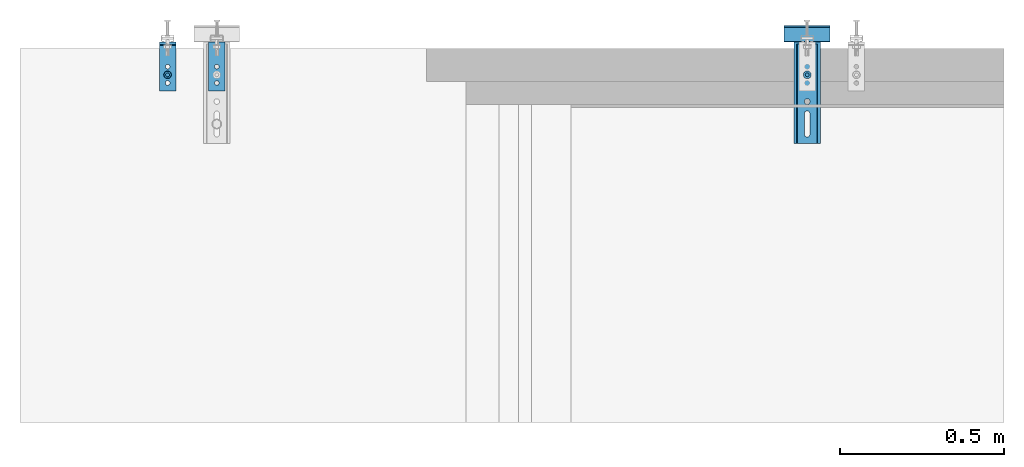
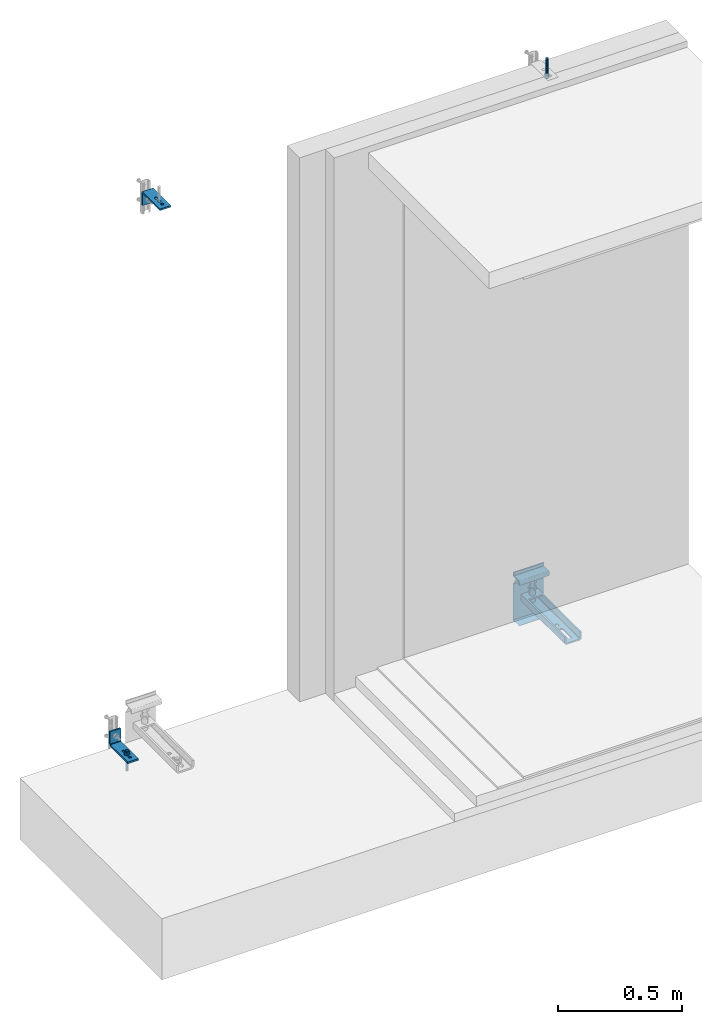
# One storey, part 3 of 7: 6 assemblies, 12 openings.
"""IFC2X3 building model written with IfcOpenShell, lengths in metres."""

from ifc_helpers import new_model, entity, si_unit, converted_unit, derived_unit, direction, frame, frame_2d, origin, place, context, subcontext, project, spatial, polyline, circle_curve, parameter, trimmed, segment, composite_curve, circle, hollow_circle, outline, extrude, source, transform, mapped, material, type_object, type_shapes, element, save


model = new_model("IFC2X3")

# Units and contexts
model_context = context("Model", 3, precision=1e-05, world=origin(), true_north=direction((6.123031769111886e-17, 1.0)))
body_context = subcontext(model_context, "Body", "Model", "MODEL_VIEW")
ifc_project = project(units=[si_unit("LENGTHUNIT", "METRE"), si_unit("AREAUNIT", "SQUARE_METRE"), converted_unit("PLANEANGLEUNIT", "DEGREE", entity("IfcPlaneAngleMeasure", 0.017453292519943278), si_unit("PLANEANGLEUNIT", "RADIAN"), dimensions=[0, 0, 0, 0, 0, 0, 0]), si_unit("VOLUMEUNIT", "CUBIC_METRE"), derived_unit("THERMALTRANSMITTANCEUNIT", [(si_unit("MASSUNIT", "GRAM", prefix="KILO"), 1), (si_unit("THERMODYNAMICTEMPERATUREUNIT", "KELVIN"), -1), (si_unit("TIMEUNIT", "SECOND"), -3)]), derived_unit("USERDEFINED", [(si_unit("MASSUNIT", "GRAM", prefix="KILO"), 1), (si_unit("THERMODYNAMICTEMPERATUREUNIT", "KELVIN"), -1), (si_unit("TIMEUNIT", "SECOND"), -2)]), derived_unit("THERMALRESISTANCEUNIT", [(si_unit("MASSUNIT", "GRAM", prefix="KILO"), -1), (si_unit("TIMEUNIT", "SECOND"), 3), (si_unit("THERMODYNAMICTEMPERATUREUNIT", "KELVIN"), 1)]), derived_unit("MASSDENSITYUNIT", [(si_unit("MASSUNIT", "GRAM", prefix="KILO"), 1), (si_unit("LENGTHUNIT", "METRE"), -3)]), derived_unit("VAPORPERMEABILITYUNIT", [(si_unit("LENGTHUNIT", "METRE"), -1), (si_unit("TIMEUNIT", "SECOND"), 1)]), derived_unit("USERDEFINED", [(si_unit("MASSUNIT", "GRAM", prefix="KILO"), 1), (si_unit("TIMEUNIT", "SECOND"), -3), (si_unit("LENGTHUNIT", "METRE"), 3), (si_unit("ELECTRICCURRENTUNIT", "AMPERE"), -2)]), si_unit("PRESSUREUNIT", "PASCAL")], contexts=[model_context])

# Site, building, storey
site_placement = place(None, origin())
site = spatial("IfcSite", under=ifc_project, at=site_placement, Name="Default", CompositionType="ELEMENT")
building_placement = place(site_placement, origin())
building = spatial("IfcBuilding", under=site, at=building_placement, CompositionType="ELEMENT")
storey_placement = place(building_placement, origin())
storey = spatial("IfcBuildingStorey", under=building, at=storey_placement, Name="L0", CompositionType="ELEMENT", Elevation=0.0)

# Assemblies
ifc_material = material(Name="REC_Acero, S 275JR (Zincado)")
type_product_1 = type_object("IfcTypeProduct", Name="REC-AEM12-100:AEM12-100", material=ifc_material)
shared_shape_1 = source(origin(), body_context, "Body", "SweptSolid", [
    extrude(outline(polyline([(-0.005890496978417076, -0.010202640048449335), (0.005890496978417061, -0.010202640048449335), (0.01178099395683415, 0.0), (0.005890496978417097, 0.010202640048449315), (-0.0058904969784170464, 0.010202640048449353), (-0.011780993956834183, 0.0), (-0.005890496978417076, -0.010202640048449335)]), holes=[composite_curve([segment(trimmed(circle_curve(frame_2d((6.043164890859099e-09, 0.0), x_axis=(1.0, 0.0)), 0.005999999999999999), [parameter(3.053332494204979e-13)], [parameter(180.0)], True, "PARAMETER"), False, "CONTINUOUS"), segment(trimmed(circle_curve(frame_2d((6.043164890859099e-09, 0.0), x_axis=(1.0, 0.0)), 0.005999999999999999), [parameter(179.99999999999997)], [parameter(0.0)], True, "PARAMETER"), False, "CONTINUOUS")], self_intersect=False)]), frame((-6.043164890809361e-09, 0.0, 0.002399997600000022)), (0.0, 0.0, 1.0), 0.009600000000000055),
    extrude(hollow_circle(Radius=0.011999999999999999, WallThickness=0.004999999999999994, at=frame_2d((1.062573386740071e-19, -1.9386534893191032e-17), x_axis=(1.0, 0.0))), origin(), (0.0, 0.0, 1.0), 0.002399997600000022),
    extrude(circle(Radius=0.006, at=frame_2d((1.3218592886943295e-19, -9.69326744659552e-18), x_axis=(1.0, 0.0))), frame((0.0, 0.0, -0.05)), (0.0, 0.0, 1.0), 0.07),
    extrude(circle(Radius=0.006, at=frame_2d((1.3218592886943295e-19, -9.69326744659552e-18), x_axis=(1.0, 0.0))), frame((0.0, 0.0, -0.08)), (0.0, 0.0, 1.0), 0.027000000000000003),
    extrude(circle(Radius=0.005, at=frame_2d((1.3218592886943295e-19, -8.077722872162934e-18), x_axis=(1.0, 0.0))), frame((0.0, 0.0, -0.053)), (0.0, 0.0, 1.0), 0.002999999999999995),
])
type_shapes(type_product_1, [shared_shape_1])
assembly_1_placement = place(storey_placement, frame((5.337720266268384, 15.854530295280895, 0.007999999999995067)))
element("IfcElementAssembly", 1, at=assembly_1_placement, inside=storey, type_object=type_product_1, material=ifc_material, Name="REC-AEM12-100:AEM12-100", ObjectType="REC-AEM12-100:AEM12-100", AssemblyPlace="NOTDEFINED", PredefinedType="NOTDEFINED", context=body_context, shape_type="MappedRepresentation", body=[
    mapped(shared_shape_1, transform((0.0, 0.0, 0.0), scale=1.0)),
])
type_product_2 = type_object("IfcTypeProduct", Name="REC-AEM12-100:AEM12-100", material=ifc_material)
shared_shape_2 = source(origin(), body_context, "Body", "SweptSolid", [
    extrude(outline(polyline([(-0.005890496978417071, -0.01020264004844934), (0.005890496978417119, -0.01020264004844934), (0.01178099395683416, 0.0), (0.005890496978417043, 0.010202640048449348), (-0.0058904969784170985, 0.010202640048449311), (-0.011780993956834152, 0.0), (-0.005890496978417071, -0.01020264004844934)]), holes=[composite_curve([segment(trimmed(circle_curve(frame_2d((-3.0215824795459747e-09, 5.2335342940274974e-09), x_axis=(-0.49999999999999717, 0.8660254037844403)), 0.005999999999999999), [parameter(0.0)], [parameter(180.00000000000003)], True, "PARAMETER"), False, "CONTINUOUS"), segment(trimmed(circle_curve(frame_2d((-3.0215824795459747e-09, 5.2335342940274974e-09), x_axis=(-0.49999999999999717, 0.8660254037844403)), 0.005999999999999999), [parameter(180.0)], [parameter(359.9999999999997)], True, "PARAMETER"), False, "CONTINUOUS")], self_intersect=False)]), frame((-6.04316488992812e-09, 0.0, 0.002399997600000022), z_axis=(0.0, 0.0, 1.0), x_axis=(-0.4999999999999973, -0.8660254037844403, 0.0)), (0.0, 0.0, 1.0), 0.009600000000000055),
    extrude(hollow_circle(Radius=0.011999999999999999, WallThickness=0.004999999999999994, at=frame_2d((1.062573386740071e-19, -5.4025493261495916e-17), x_axis=(1.0, 0.0))), origin(), (0.0, 0.0, 1.0), 0.002399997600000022),
    extrude(circle(Radius=0.006, at=frame_2d((1.3218592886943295e-19, -2.7012746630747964e-17), x_axis=(1.0, 0.0))), frame((0.0, 0.0, -0.05)), (0.0, 0.0, 1.0), 0.07),
    extrude(circle(Radius=0.006, at=frame_2d((1.3218592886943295e-19, -2.7012746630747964e-17), x_axis=(1.0, 0.0))), frame((0.0, 0.0, -0.08)), (0.0, 0.0, 1.0), 0.027000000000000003),
    extrude(circle(Radius=0.005, at=frame_2d((1.3218592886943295e-19, -2.251062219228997e-17), x_axis=(1.0, 0.0))), frame((0.0, 0.0, -0.053)), (0.0, 0.0, 1.0), 0.002999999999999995),
])
type_shapes(type_product_2, [shared_shape_2])
assembly_2_placement = place(storey_placement, frame((7.287720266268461, 15.854530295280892, 2.662000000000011), z_axis=(0.0, 0.0, -1.0), x_axis=(1.0, 0.0, 0.0)))
element("IfcElementAssembly", 2, at=assembly_2_placement, inside=storey, type_object=type_product_2, material=ifc_material, Name="REC-AEM12-100:AEM12-100", ObjectType="REC-AEM12-100:AEM12-100", AssemblyPlace="NOTDEFINED", PredefinedType="NOTDEFINED", context=body_context, shape_type="MappedRepresentation", body=[
    mapped(shared_shape_2, transform((0.0, 0.0, 0.0), scale=1.0)),
])

# Assembly, openings
type_product_3 = type_object("IfcTypeProduct", Name="REC-MF45T:MF45T", material=ifc_material)
shared_shape_3 = source(origin(), body_context, "Body", "SweptSolid", [
    extrude(outline(polyline([(-0.00866025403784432, -0.014999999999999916), (0.0086602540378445, -0.014999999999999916), (0.01732050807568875, 0.0), (0.008660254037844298, 0.014999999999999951), (-0.0086602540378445, 0.01499999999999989), (-0.017320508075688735, 0.0), (-0.00866025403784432, -0.014999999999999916)]), holes=[composite_curve([segment(trimmed(circle_curve(frame_2d((0.0, 0.0), x_axis=(-0.8660254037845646, 0.499999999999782)), 0.009999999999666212), [parameter(3.053332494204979e-13)], [parameter(180.0)], True, "PARAMETER"), False, "CONTINUOUS"), segment(trimmed(circle_curve(frame_2d((0.0, 0.0), x_axis=(-0.8660254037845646, 0.499999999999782)), 0.009999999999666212), [parameter(179.99999999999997)], [parameter(0.0)], True, "PARAMETER"), False, "CONTINUOUS")], self_intersect=False)]), frame((0.00013098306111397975, 0.06808023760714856, 0.022999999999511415), z_axis=(0.0, 1.0, 0.0), x_axis=(-0.8660254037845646, 0.0, 0.49999999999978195)), (0.0, 0.0, 1.0), 0.008959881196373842),
    extrude(hollow_circle(Radius=0.013, WallThickness=0.003000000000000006, at=frame_2d((-1.881047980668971e-18, 8.810727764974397e-17), x_axis=(1.0, 0.0))), frame((0.00013098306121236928, 0.0, 0.022999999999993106), z_axis=(0.0, 1.0, 0.0), x_axis=(-0.46114690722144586, 0.0, -0.887323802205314)), (0.0, 0.0, 1.0), 0.06808023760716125),
    extrude(outline(polyline([(-0.022999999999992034, -0.03200000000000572), (0.022999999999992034, -0.03200000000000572), (0.022999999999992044, 0.03200000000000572), (-0.022999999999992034, 0.03200000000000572), (-0.022999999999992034, -0.03200000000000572)]), holes=[composite_curve([segment(trimmed(circle_curve(frame_2d((0.0, 0.0), x_axis=(0.0, -1.0)), 0.012999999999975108), [parameter(3.053332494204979e-13)], [parameter(180.0)], True, "PARAMETER"), False, "CONTINUOUS"), segment(trimmed(circle_curve(frame_2d((0.0, 0.0), x_axis=(0.0, -1.0)), 0.012999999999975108), [parameter(179.99999999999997)], [parameter(0.0)], True, "PARAMETER"), False, "CONTINUOUS")], self_intersect=False)]), frame((0.00013098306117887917, 0.03199999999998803, 0.022999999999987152), z_axis=(0.0, 1.0, 0.0), x_axis=(0.0, 0.0, -1.0)), (0.0, 0.0, 1.0), 0.007999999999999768),
    extrude(outline(composite_curve([segment(polyline([(-0.006666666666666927, -0.040000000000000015), (0.02133333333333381, -0.04000000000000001)]), True, "CONTINUOUS"), segment(polyline([(0.02133333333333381, -0.04000000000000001), (0.02133333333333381, -0.03200000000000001)]), True, "CONTINUOUS"), segment(polyline([(0.02133333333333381, -0.03200000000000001), (-0.006666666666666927, -0.032000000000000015)]), True, "CONTINUOUS"), segment(trimmed(circle_curve(frame_2d((-0.006666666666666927, -0.028000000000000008), x_axis=(0.0, 1.0)), 0.004), [parameter(90.00000000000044)], [parameter(180.0000000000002)], True, "PARAMETER"), False, "CONTINUOUS"), segment(polyline([(-0.010666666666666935, -0.02800000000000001), (-0.010666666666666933, 0.028000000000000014)]), True, "CONTINUOUS"), segment(trimmed(circle_curve(frame_2d((-0.006666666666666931, 0.028), x_axis=(0.0, 1.0)), 0.004), [parameter(359.99999999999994)], [parameter(90.00000000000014)], True, "PARAMETER"), False, "CONTINUOUS"), segment(polyline([(-0.006666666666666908, 0.032), (0.02133333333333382, 0.032)]), True, "CONTINUOUS"), segment(polyline([(0.02133333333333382, 0.032), (0.02133333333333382, 0.03999999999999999)]), True, "CONTINUOUS"), segment(polyline([(0.02133333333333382, 0.03999999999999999), (-0.0066666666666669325, 0.04)]), True, "CONTINUOUS"), segment(trimmed(circle_curve(frame_2d((-0.006666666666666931, 0.028), x_axis=(0.0, 1.0)), 0.012), [parameter(359.9999999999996)], [parameter(89.99999999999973)], True, "PARAMETER"), True, "CONTINUOUS"), segment(polyline([(-0.018666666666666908, 0.02800000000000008), (-0.01866666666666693, -0.028000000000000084)]), True, "CONTINUOUS"), segment(trimmed(circle_curve(frame_2d((-0.006666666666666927, -0.028000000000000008), x_axis=(0.0, 1.0)), 0.012), [parameter(90.00000000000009)], [parameter(179.99999999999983)], True, "PARAMETER"), True, "CONTINUOUS")], self_intersect=False)), frame((0.00013098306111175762, 0.01866666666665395, 0.0), z_axis=(0.0, 0.0, 1.0), x_axis=(0.0, 1.0, 0.0)), (0.0, 0.0, 1.0), 0.35000000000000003),
    extrude(circle(Radius=0.009999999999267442, at=frame_2d((6.939761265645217e-19, 1.268984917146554e-17), x_axis=(1.0, 0.0))), frame((0.00013098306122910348, -0.02000000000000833, 0.022999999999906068), z_axis=(0.0, 1.0, 0.0), x_axis=(-1.0, 0.0, 0.0)), (0.0, 0.0, 1.0), 0.15000000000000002),
    extrude(outline(polyline([(-0.008660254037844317, -0.01499999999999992), (0.008660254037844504, -0.01499999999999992), (0.01732050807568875, 0.0), (0.008660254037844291, 0.014999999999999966), (-0.008660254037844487, 0.014999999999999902), (-0.01732050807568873, 0.0), (-0.008660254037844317, -0.01499999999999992)]), holes=[composite_curve([segment(trimmed(circle_curve(frame_2d((0.0, 0.0), x_axis=(-0.8660254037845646, 0.499999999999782)), 0.009999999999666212), [parameter(3.053332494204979e-13)], [parameter(180.0)], True, "PARAMETER"), False, "CONTINUOUS"), segment(trimmed(circle_curve(frame_2d((0.0, 0.0), x_axis=(-0.8660254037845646, 0.499999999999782)), 0.009999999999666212), [parameter(179.99999999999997)], [parameter(0.0)], True, "PARAMETER"), False, "CONTINUOUS")], self_intersect=False)]), frame((0.00013098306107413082, 0.09904011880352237, 0.022999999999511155), z_axis=(0.0, 1.0, 0.0), x_axis=(-0.8660254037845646, 0.0, 0.49999999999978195)), (0.0, 0.0, 1.0), 0.016),
])
type_shapes(type_product_3, [shared_shape_3])
assembly_3_placement = place(storey_placement, frame((7.287589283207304, 15.994530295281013, 4.011880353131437e-05), z_axis=(0.0, -1.0, 0.0), x_axis=(1.0, 0.0, 0.0)))
assembly_3 = element("IfcElementAssembly", 3, at=assembly_3_placement, inside=storey, type_object=type_product_3, material=ifc_material, Name="REC-MF45T:MF45T", ObjectType="REC-MF45T:MF45T", AssemblyPlace="NOTDEFINED", PredefinedType="NOTDEFINED", context=body_context, shape_type="MappedRepresentation", body=[
    mapped(shared_shape_3, transform((0.0, 0.0, 0.0), scale=1.0)),
])
opening_1_placement = place(storey_placement, frame((7.287589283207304, 15.994530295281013, 4.011880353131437e-05), z_axis=(0.0, 0.0, -1.0), x_axis=(1.0, 0.0, 0.0)))
element("IfcOpeningElement", 4, at=opening_1_placement, cuts=assembly_3, Name="REC-MF45T:MF45T:1", ObjectType="Opening", context=body_context, shape_type="SweptSolid", body=[
    extrude(outline(polyline([(-0.03199999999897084, -0.007999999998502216), (0.03199999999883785, -0.007999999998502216), (0.03366329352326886, -0.007825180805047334), (0.03525389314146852, -0.007308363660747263), (0.03670228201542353, -0.006472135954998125), (0.03794515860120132, -0.00535304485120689), (0.038928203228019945, -0.00400000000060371), (0.03960845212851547, -0.0024721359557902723), (0.03995617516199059, -0.0008362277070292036), (0.039956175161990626, 0.000836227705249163), (0.039608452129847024, 0.002472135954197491), (0.038928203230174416, 0.003999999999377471), (0.03794515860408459, 0.005353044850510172), (0.03670228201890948, 0.006472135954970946), (0.0352538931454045, 0.007308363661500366), (0.03366329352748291, 0.00782518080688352), (0.032000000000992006, 0.008000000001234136), (-0.03199999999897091, 0.008000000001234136), (-0.03366329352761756, 0.00782518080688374), (-0.03525389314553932, 0.007308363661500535), (-0.036702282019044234, 0.006472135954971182), (-0.0379451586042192, 0.005353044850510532), (-0.03892820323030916, 0.003999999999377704), (-0.03960845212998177, 0.002472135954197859), (-0.039956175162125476, 0.0008362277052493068), (-0.03995617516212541, -0.0008362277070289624), (-0.03960845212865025, -0.0024721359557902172), (-0.038928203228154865, -0.0040000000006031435), (-0.03794515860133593, -0.0053530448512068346), (-0.03670228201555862, -0.006472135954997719), (-0.03525389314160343, -0.007308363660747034), (-0.033663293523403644, -0.007825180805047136), (-0.03199999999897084, -0.007999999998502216)])), frame((0.0, 0.2899863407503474, -0.007999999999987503), z_axis=(0.0, 0.0, 1.0), x_axis=(0.0, -1.0, 0.0)), (0.0, 0.0, 1.0), 0.007999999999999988),
])
opening_2_placement = place(storey_placement, frame((7.287589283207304, 15.994530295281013, 4.011880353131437e-05), z_axis=(0.0, 0.0, -1.0), x_axis=(1.0, 0.0, 0.0)))
element("IfcOpeningElement", 5, at=opening_2_placement, cuts=assembly_3, Name="REC-MF45T:MF45T:2", ObjectType="Opening", context=body_context, shape_type="SweptSolid", body=[
    extrude(circle(Radius=0.008499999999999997, at=frame_2d((-2.7860451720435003e-19, -3.383959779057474e-17), x_axis=(1.0, 0.0))), frame((0.0, 0.22148634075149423, -0.007999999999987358), z_axis=(0.0, 0.0, 1.0), x_axis=(-1.0, 0.0, 0.0)), (0.0, 0.0, 1.0), 0.007999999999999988),
])
opening_3_placement = place(storey_placement, frame((7.287589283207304, 15.994530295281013, 4.011880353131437e-05), z_axis=(0.0, 0.0, -1.0), x_axis=(1.0, 0.0, 0.0)))
element("IfcOpeningElement", 6, at=opening_3_placement, cuts=assembly_3, Name="REC-MF45T:MF45T:3", ObjectType="Opening", context=body_context, shape_type="SweptSolid", body=[
    extrude(circle(Radius=0.012999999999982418, at=frame_2d((-6.444064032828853e-19, -7.613909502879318e-17), x_axis=(1.0, 0.0))), frame((0.00013098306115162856, 0.022999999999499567, -0.007999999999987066), z_axis=(0.0, 0.0, 1.0), x_axis=(-1.0, 0.0, 0.0)), (0.0, 0.0, 1.0), 0.007999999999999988),
])

# Assembly, opening
type_product_4 = type_object("IfcTypeProduct", Name="REC-CMFPR-2:CMFPR-2", material=ifc_material)
shared_shape_4 = source(origin(), body_context, "Body", "SweptSolid", [
    extrude(outline(composite_curve([segment(polyline([(-0.025499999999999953, -0.018000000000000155), (-0.01949999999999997, -0.018000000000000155)]), True, "CONTINUOUS"), segment(polyline([(-0.01949999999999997, -0.018000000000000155), (-0.01949999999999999, -0.004999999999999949)]), True, "CONTINUOUS"), segment(trimmed(circle_curve(frame_2d((-0.017499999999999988, -0.004999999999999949), x_axis=(1.0, 0.0)), 0.002), [parameter(89.99999999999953)], [parameter(180.00000000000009)], True, "PARAMETER"), False, "CONTINUOUS"), segment(polyline([(-0.017499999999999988, -0.003000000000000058), (0.017500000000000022, -0.0030000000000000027)]), True, "CONTINUOUS"), segment(trimmed(circle_curve(frame_2d((0.017499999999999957, 0.0050000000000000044), x_axis=(1.0, 0.0)), 0.008), [parameter(270.0000000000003)], [parameter(4.0711099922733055e-13)], True, "PARAMETER"), True, "CONTINUOUS"), segment(polyline([(0.02549999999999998, 0.0050000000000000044), (0.025499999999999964, 0.01800000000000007)]), True, "CONTINUOUS"), segment(polyline([(0.025499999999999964, 0.01800000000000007), (0.019499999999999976, 0.01800000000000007)]), True, "CONTINUOUS"), segment(polyline([(0.019499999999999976, 0.01800000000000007), (0.01949999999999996, 0.0050000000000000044)]), True, "CONTINUOUS"), segment(trimmed(circle_curve(frame_2d((0.017499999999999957, 0.0050000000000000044), x_axis=(1.0, 0.0)), 0.002), [parameter(270.0)], [parameter(359.9999999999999)], True, "PARAMETER"), False, "CONTINUOUS"), segment(polyline([(0.017499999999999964, 0.002999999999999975), (-0.01750000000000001, 0.003000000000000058)]), True, "CONTINUOUS"), segment(trimmed(circle_curve(frame_2d((-0.017499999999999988, -0.004999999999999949), x_axis=(1.0, 0.0)), 0.008), [parameter(90.00000000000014)], [parameter(180.00000000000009)], True, "PARAMETER"), True, "CONTINUOUS"), segment(polyline([(-0.02549999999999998, -0.004999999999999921), (-0.025499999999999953, -0.018000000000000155)]), True, "CONTINUOUS")], self_intersect=False)), frame((-0.21800001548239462, -0.0699999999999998, -0.02549999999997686), z_axis=(0.0, 1.0, 0.0), x_axis=(0.0, 0.0, 1.0)), (0.0, 0.0, 1.0), 0.13999999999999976),
    extrude(outline(polyline([(-0.12140000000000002, -0.023581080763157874), (0.055600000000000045, -0.023581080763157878), (0.0936, 4.0539236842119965e-05), (0.0936, 0.01941891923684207), (0.09210000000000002, 0.01941891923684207), (0.09210000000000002, 0.0006081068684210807), (0.05560000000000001, -0.02208108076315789), (-0.1199, -0.022081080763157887), (-0.1199, 0.02591891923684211), (-0.12140000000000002, 0.02591891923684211), (-0.12140000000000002, -0.023581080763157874)])), frame((-0.12139999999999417, -0.07000000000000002, -0.02741891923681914), z_axis=(0.0, 1.0, 0.0), x_axis=(-1.0, 0.0, 0.0)), (0.0, 0.0, 1.0), 0.13999999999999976),
])
type_shapes(type_product_4, [shared_shape_4])
assembly_4_placement = place(storey_placement, frame((7.287589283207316, 15.95453029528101, -0.08350000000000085), z_axis=(0.0, -1.0, 0.0), x_axis=(0.0, 0.0, -1.0)))
assembly_4 = element("IfcElementAssembly", 7, at=assembly_4_placement, inside=storey, type_object=type_product_4, material=ifc_material, Name="REC-CMFPR-2:CMFPR-2", ObjectType="REC-CMFPR-2:CMFPR-2", AssemblyPlace="NOTDEFINED", PredefinedType="NOTDEFINED", context=body_context, shape_type="MappedRepresentation", body=[
    mapped(shared_shape_4, transform((0.0, 0.0, 0.0), scale=1.0)),
])
opening_4_placement = place(storey_placement, frame((7.287589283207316, 15.95453029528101, -0.08350000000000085), z_axis=(-1.0, 0.0, 0.0), x_axis=(0.0, 1.0, 0.0)))
element("IfcOpeningElement", 8, at=opening_4_placement, cuts=assembly_4, Name="REC-CMFPR-2:CMFPR-2:1", ObjectType="Opening", context=body_context, shape_type="SweptSolid", body=[
    extrude(circle(Radius=0.00425, at=frame_2d((3.7569500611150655e-33, 2.1149748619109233e-18), x_axis=(1.0, 0.0))), frame((0.012249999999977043, -0.00149999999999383, -0.05974999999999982), z_axis=(0.0, 1.0, 0.0), x_axis=(0.0, 0.0, -1.0)), (0.0, 0.0, 1.0), 0.0015000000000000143),
])

# Assembly, openings
type_product_5 = type_object("IfcTypeProduct", Name="REC-PAA150708T14:PAA150708T14", material=ifc_material)
shared_shape_5 = source(origin(), body_context, "Body", "SweptSolid", [
    extrude(outline(polyline([(-0.0007712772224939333, -0.01619336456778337), (-0.057656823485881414, -0.0048781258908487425), (-0.05921754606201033, -0.012724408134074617), (-0.0023319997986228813, -0.02403964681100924), (0.0005526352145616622, -0.02425790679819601), (0.003405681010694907, -0.023779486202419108), (0.0060613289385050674, -0.02263218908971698), (0.008365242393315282, -0.020882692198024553), (0.010183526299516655, -0.018632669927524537), (0.011565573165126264, -0.015681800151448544), (0.03870097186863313, 0.12073706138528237), (0.030854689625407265, 0.12229778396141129), (0.003932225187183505, -0.013050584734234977), (0.003334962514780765, -0.01449250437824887), (0.002231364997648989, -0.015596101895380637), (0.0007894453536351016, -0.016193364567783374), (-0.0007712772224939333, -0.01619336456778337)])), frame((-0.024999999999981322, 0.014402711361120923, 0.024032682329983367), z_axis=(-1.0, 0.0, 0.0), x_axis=(0.0, -0.9807852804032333, 0.19509032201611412)), (0.0, 0.0, -1.0), 0.04999999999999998),
])
type_shapes(type_product_5, [shared_shape_5])
assembly_5_placement = place(storey_placement, frame((5.4877202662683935, 15.954530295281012, 2.6700000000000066), z_axis=(0.0, -1.0, 0.0), x_axis=(-1.0, 0.0, 0.0)))
assembly_5 = element("IfcElementAssembly", 9, at=assembly_5_placement, inside=storey, type_object=type_product_5, material=ifc_material, Name="REC-PAA150708T14:PAA150708T14", ObjectType="REC-PAA150708T14:PAA150708T14", AssemblyPlace="NOTDEFINED", PredefinedType="NOTDEFINED", context=body_context, shape_type="MappedRepresentation", body=[
    mapped(shared_shape_5, transform((0.0, 0.0, 0.0), scale=1.0)),
])
opening_5_placement = place(storey_placement, frame((5.4877202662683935, 15.954530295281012, 2.6700000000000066)))
element("IfcOpeningElement", 10, at=opening_5_placement, cuts=assembly_5, Name="REC-PAA150708T14:PAA150708T14:1", ObjectType="Opening", context=body_context, shape_type="SweptSolid", body=[
    extrude(circle(Radius=0.007, at=frame_2d((0.0, -1.752606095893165e-17), x_axis=(1.0, 0.0))), frame((0.0, -0.00799999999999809, -0.04500000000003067), z_axis=(0.0, 1.0, 0.0), x_axis=(0.0, 0.0, 1.0)), (0.0, 0.0, 1.0), 0.008000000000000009),
])
opening_6_placement = place(storey_placement, frame((5.4877202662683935, 15.954530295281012, 2.6700000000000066)))
element("IfcOpeningElement", 11, at=opening_6_placement, cuts=assembly_5, Name="REC-PAA150708T14:PAA150708T14:2", ObjectType="Opening", context=body_context, shape_type="SweptSolid", body=[
    extrude(circle(Radius=0.007, at=frame_2d((-1.1948495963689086e-31, 6.726405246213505e-17), x_axis=(1.0, 0.0))), frame((0.0, -0.12499999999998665, -0.008000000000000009), z_axis=(0.0, 0.0, 1.0), x_axis=(0.0, 1.0, 0.0)), (0.0, 0.0, 1.0), 0.008000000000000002),
])
opening_7_placement = place(storey_placement, frame((5.4877202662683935, 15.954530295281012, 2.6700000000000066)))
element("IfcOpeningElement", 12, at=opening_7_placement, cuts=assembly_5, Name="REC-PAA150708T14:PAA150708T14:3", ObjectType="Opening", context=body_context, shape_type="SweptSolid", body=[
    extrude(circle(Radius=0.007, at=frame_2d((-1.1948495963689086e-31, 6.726405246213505e-17), x_axis=(1.0, 0.0))), frame((0.0, -0.09999999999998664, -0.00800000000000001), z_axis=(0.0, 0.0, 1.0), x_axis=(0.0, 1.0, 0.0)), (0.0, 0.0, 1.0), 0.008000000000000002),
])
opening_8_placement = place(storey_placement, frame((5.4877202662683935, 15.954530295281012, 2.6700000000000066)))
element("IfcOpeningElement", 13, at=opening_8_placement, cuts=assembly_5, Name="REC-PAA150708T14:PAA150708T14:4", ObjectType="Opening", context=body_context, shape_type="SweptSolid", body=[
    extrude(circle(Radius=0.007, at=frame_2d((8.459899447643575e-18, 6.726405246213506e-17), x_axis=(1.0, 0.0))), frame((0.0, -0.07499999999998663, -0.00800000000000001), z_axis=(0.0, 0.0, 1.0), x_axis=(0.0, 1.0, 0.0)), (0.0, 0.0, 1.0), 0.008000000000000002),
])

type_product_6 = type_object("IfcTypeProduct", Name="REC-PAA150708T14:PAA150708T14", material=ifc_material)
shared_shape_6 = source(origin(), body_context, "Body", "SweptSolid", [
    extrude(outline(polyline([(-0.0007712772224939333, -0.01619336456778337), (-0.057656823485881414, -0.0048781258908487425), (-0.05921754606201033, -0.012724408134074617), (-0.0023319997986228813, -0.02403964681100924), (0.0005526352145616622, -0.02425790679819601), (0.003405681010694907, -0.023779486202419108), (0.0060613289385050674, -0.02263218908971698), (0.008365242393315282, -0.020882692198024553), (0.010183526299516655, -0.018632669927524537), (0.011565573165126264, -0.015681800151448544), (0.03870097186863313, 0.12073706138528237), (0.030854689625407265, 0.12229778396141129), (0.003932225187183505, -0.013050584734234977), (0.003334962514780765, -0.01449250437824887), (0.002231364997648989, -0.015596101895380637), (0.0007894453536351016, -0.016193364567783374), (-0.0007712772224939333, -0.01619336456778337)])), frame((-0.024999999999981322, 0.014402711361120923, 0.024032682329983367), z_axis=(-1.0, 0.0, 0.0), x_axis=(0.0, -0.9807852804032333, 0.19509032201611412)), (0.0, 0.0, -1.0), 0.04999999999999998),
])
type_shapes(type_product_6, [shared_shape_6])
assembly_6_placement = place(storey_placement, frame((5.337720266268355, 15.954530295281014, 0.0), z_axis=(0.0, -1.0, 0.0), x_axis=(1.0, 0.0, 0.0)))
assembly_6 = element("IfcElementAssembly", 14, at=assembly_6_placement, inside=storey, type_object=type_product_6, material=ifc_material, Name="REC-PAA150708T14:PAA150708T14", ObjectType="REC-PAA150708T14:PAA150708T14", AssemblyPlace="NOTDEFINED", PredefinedType="NOTDEFINED", context=body_context, shape_type="MappedRepresentation", body=[
    mapped(shared_shape_6, transform((0.0, 0.0, 0.0), scale=1.0)),
])
opening_9_placement = place(storey_placement, frame((5.337720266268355, 15.954530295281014, 0.0), z_axis=(0.0, 0.0, -1.0), x_axis=(1.0, 0.0, 0.0)))
element("IfcOpeningElement", 15, at=opening_9_placement, cuts=assembly_6, Name="REC-PAA150708T14:PAA150708T14:1", ObjectType="Opening", context=body_context, shape_type="SweptSolid", body=[
    extrude(circle(Radius=0.007, at=frame_2d((6.283419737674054e-33, 3.537250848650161e-18), x_axis=(1.0, 0.0))), frame((0.0, 0.12499999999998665, 0.0), z_axis=(0.0, 0.0, -1.0), x_axis=(0.0, -1.0, 0.0)), (0.0, 0.0, 1.0), 0.008000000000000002),
])
opening_10_placement = place(storey_placement, frame((5.337720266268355, 15.954530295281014, 0.0), z_axis=(0.0, 0.0, -1.0), x_axis=(1.0, 0.0, 0.0)))
element("IfcOpeningElement", 16, at=opening_10_placement, cuts=assembly_6, Name="REC-PAA150708T14:PAA150708T14:2", ObjectType="Opening", context=body_context, shape_type="SweptSolid", body=[
    extrude(circle(Radius=0.007, at=frame_2d((6.283419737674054e-33, 3.537250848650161e-18), x_axis=(1.0, 0.0))), frame((0.0, 0.09999999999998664, 0.0), z_axis=(0.0, 0.0, -1.0), x_axis=(0.0, -1.0, 0.0)), (0.0, 0.0, 1.0), 0.008000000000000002),
])
opening_11_placement = place(storey_placement, frame((5.337720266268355, 15.954530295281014, 0.0), z_axis=(0.0, 0.0, -1.0), x_axis=(1.0, 0.0, 0.0)))
element("IfcOpeningElement", 17, at=opening_11_placement, cuts=assembly_6, Name="REC-PAA150708T14:PAA150708T14:3", ObjectType="Opening", context=body_context, shape_type="SweptSolid", body=[
    extrude(circle(Radius=0.007, at=frame_2d((8.4598994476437e-18, 3.537250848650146e-18), x_axis=(1.0, 0.0))), frame((0.0, 0.07499999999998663, 0.0), z_axis=(0.0, 0.0, -1.0), x_axis=(0.0, -1.0, 0.0)), (0.0, 0.0, 1.0), 0.008000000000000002),
])
opening_12_placement = place(storey_placement, frame((5.337720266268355, 15.954530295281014, 0.0), z_axis=(0.0, 0.0, -1.0), x_axis=(1.0, 0.0, 0.0)))
element("IfcOpeningElement", 18, at=opening_12_placement, cuts=assembly_6, Name="REC-PAA150708T14:PAA150708T14:4", ObjectType="Opening", context=body_context, shape_type="SweptSolid", body=[
    extrude(circle(Radius=0.007, at=frame_2d((0.0, 2.133174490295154e-17), x_axis=(1.0, 0.0))), frame((0.0, 0.0, -0.04500000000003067), z_axis=(0.0, 1.0, 0.0), x_axis=(0.0, 0.0, 1.0)), (0.0, 0.0, 1.0), 0.008000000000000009),
])

save(model, "model.ifc")
